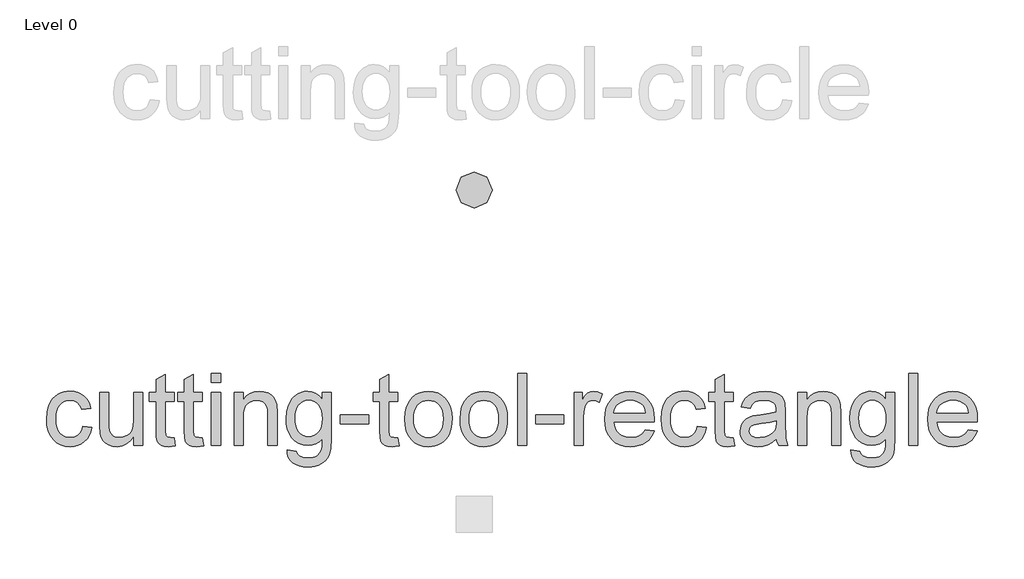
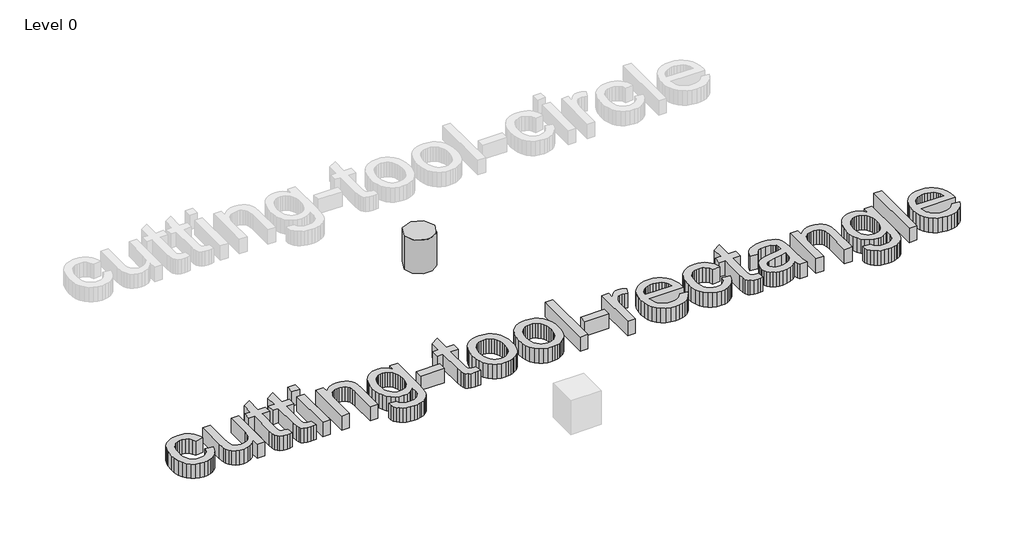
# One storey, part 2 of 3: 2 proxies.
"""IFC4 building model written with IfcOpenShell, lengths in millimetres."""

from ifc_helpers import new_model, si_unit, origin, origin_with_axes, place, context, project, spatial, polyline, outline, extrude, transform, mapped, element, save
from components import kingspan_ks_cutting_tool_circle_cutting_tool_circle_f6fe257a

model = new_model("IFC4")

# Units and contexts
model_context = context("Model", 3, world=origin())
ifc_project = project(units=[si_unit("LENGTHUNIT", "METRE", prefix="MILLI")], contexts=[model_context])

# Site, building, storey
site = spatial("IfcSite", under=ifc_project)
building = spatial("IfcBuilding", under=site)
storey = spatial("IfcBuildingStorey", under=building, Name="Level 0", Elevation=0.0)

# Proxies
placement = place(None, origin())
element("IfcBuildingElementProxy", 1, Name="24\" Arial", ObjectType="24\" Arial", at=placement, inside=storey, context=model_context, shape_type="SweptSolid", body=[
    extrude(outline(polyline([(-1260.3603868, 9879.8088474), (-1184.2186133, 9870.2911257), (-1192.5001465, 9834.3626558), (-1205.4475941, 9802.5703052), (-1223.060956, 9774.9140738), (-1245.3402323, 9751.3939618), (-1271.3466632, 9732.6234159), (-1300.1414892, 9719.2158832), (-1331.7247102, 9711.1713635), (-1366.0963262, 9708.489857), (-1408.8005961, 9712.2309536), (-1447.0899071, 9723.4542436), (-1480.9642593, 9742.1597269), (-1510.4236528, 9768.3474035), (-1534.2690776, 9801.524657), (-1551.3015239, 9841.1988709), (-1561.5209916, 9887.3700452), (-1564.9274809, 9940.03818), (-1559.1090299, 10007.7961791), (-1551.8359663, 10038.2872787), (-1541.6536771, 10066.5197784), (-1528.4924526, 10091.9267044), (-1512.2825828, 10113.9410831), (-1493.0240678, 10132.5629146), (-1470.7169076, 10147.7921987), (-1446.3695717, 10159.6335829), (-1420.9905296, 10168.0917145), (-1394.5797814, 10173.1665935), (-1367.137327, 10174.8582198), (-1333.3559213, 10172.5345573), (-1302.7997591, 10165.5635697), (-1275.4688405, 10153.9452571), (-1251.3631655, 10137.6796194), (-1230.8916987, 10117.1384427), (-1214.4634047, 10092.693513), (-1202.0782835, 10064.3448302), (-1193.736335, 10032.0923944), (-1269.8781085, 10022.5746727), (-1283.6899586, 10055.7937522), (-1305.1977789, 10079.6066457), (-1333.2118542, 10093.9389961), (-1366.5424694, 10098.7164463), (-1392.414128, 10096.3648998), (-1415.748347, 10089.3102604), (-1436.5451266, 10077.552528), (-1454.8044667, 10061.0917027), (-1469.6712595, 10039.5467038), (-1480.2903972, 10012.5364506), (-1486.6618798, 9980.0609432), (-1488.7857074, 9942.1201816), (-1486.7083531, 9903.6077989), (-1480.4762902, 9870.7558582), (-1470.0895187, 9843.5643594), (-1455.5480387, 9822.0333025), (-1437.6511899, 9805.670071), (-1417.1983124, 9793.9820485), (-1394.1894061, 9786.969235), (-1368.6244711, 9784.6316305), (-1329.1965654, 9790.4686708), (-1312.1455298, 9797.7649711), (-1296.8697724, 9807.9797915), (-1283.796847, 9821.2246679), (-1273.3543077, 9837.611136), (-1265.5421543, 9857.1391958), (-1260.3603868, 9879.8088474)])), origin_with_axes(), (0.0, 0.0, 1.0), 152.4),
    extrude(outline(polyline([(-832.0629108, 9718.0075787), (-832.0629108, 9794.8929242), (-859.6122537, 9757.0915823), (-891.6973858, 9730.0906238), (-928.3183071, 9713.8900487), (-969.4750177, 9708.489857), (-1006.5606715, 9712.2820742), (-1041.081002, 9723.6587259), (-1070.0431316, 9740.7608821), (-1090.4541832, 9761.7296127), (-1104.1916761, 9787.1969539), (-1113.1331294, 9817.794942), (-1117.5945615, 9888.5829971), (-1117.5945615, 10165.3404981), (-1041.452788, 10165.3404981), (-1041.452788, 9924.4231678), (-1040.3002514, 9876.2397018), (-1036.8426415, 9846.7942503), (-1025.7448293, 9820.8993551), (-1006.7279752, 9801.2132863), (-981.0561517, 9788.7770444), (-949.9934311, 9784.6316305), (-917.1461377, 9788.8699909), (-886.4180245, 9801.5850723), (-861.0808084, 9821.6057486), (-844.4062061, 9847.7608939), (-835.1487346, 9883.5824753), (-832.0629108, 9932.6024599), (-832.0629108, 10165.3404981), (-755.9211373, 10165.3404981), (-755.9211373, 9718.0075787), (-832.0629108, 9718.0075787)])), origin_with_axes(), (0.0, 0.0, 1.0), 152.4),
    extrude(outline(polyline([(-489.42493, 9781.5086281), (-479.9072083, 9715.7768627), (-510.0590532, 9710.3116084), (-536.864824, 9708.489857), (-573.4113882, 9711.650038), (-600.6633022, 9721.1305811), (-619.9218172, 9735.741771), (-632.4881841, 9754.2938926), (-639.4034038, 9786.1559531), (-641.708477, 9840.6969598), (-641.708477, 10089.1987246), (-698.8148071, 10089.1987246), (-698.8148071, 10165.3404981), (-641.708477, 10165.3404981), (-641.708477, 10274.0507255), (-565.5667035, 10318.8137603), (-565.5667035, 10165.3404981), (-489.42493, 10165.3404981), (-489.42493, 10089.1987246), (-565.5667035, 10089.1987246), (-565.5667035, 9842.9276759), (-561.5514147, 9803.6670739), (-548.5389045, 9789.7622774), (-537.5526281, 9785.9142922), (-522.5882415, 9784.6316305), (-489.42493, 9781.5086281)])), origin_with_axes(), (0.0, 0.0, 1.0), 152.4),
    extrude(outline(polyline([(-251.4818877, 9781.5086281), (-241.964166, 9715.7768627), (-272.1160109, 9710.3116084), (-298.9217818, 9708.489857), (-335.4683459, 9711.650038), (-362.72026, 9721.1305811), (-381.978775, 9735.741771), (-394.5451419, 9754.2938926), (-401.4603615, 9786.1559531), (-403.7654348, 9840.6969598), (-403.7654348, 10089.1987246), (-460.8717649, 10089.1987246), (-460.8717649, 10165.3404981), (-403.7654348, 10165.3404981), (-403.7654348, 10274.0507255), (-327.6236612, 10318.8137603), (-327.6236612, 10165.3404981), (-251.4818877, 10165.3404981), (-251.4818877, 10089.1987246), (-327.6236612, 10089.1987246), (-327.6236612, 9842.9276759), (-323.6083724, 9803.6670739), (-310.5958623, 9789.7622774), (-299.6095859, 9785.9142922), (-284.6451992, 9784.6316305), (-251.4818877, 9781.5086281)])), origin_with_axes(), (0.0, 0.0, 1.0), 152.4),
    extrude(outline(polyline([(-175.3401142, 10250.9999933), (-175.3401142, 10327.1417668), (-99.1983407, 10327.1417668), (-99.1983407, 10250.9999933), (-175.3401142, 10250.9999933)])), origin_with_axes(), (0.0, 0.0, 1.0), 152.4),
    extrude(outline(polyline([(-175.3401142, 9718.0075787), (-175.3401142, 10165.3404981), (-99.1983407, 10165.3404981), (-99.1983407, 9718.0075787), (-175.3401142, 9718.0075787)])), origin_with_axes(), (0.0, 0.0, 1.0), 152.4),
    extrude(outline(polyline([(15.0143196, 9718.0075787), (15.0143196, 10165.3404981), (91.1560931, 10165.3404981), (91.1560931, 10102.8804495), (117.6086672, 10134.370724), (149.3777812, 10156.8637772), (186.4634351, 10170.3596091), (228.8656288, 10174.8582198), (266.3974258, 10171.2333062), (300.7690419, 10160.3585656), (329.4337427, 10143.5910169), (349.8447943, 10122.2876789), (363.693823, 10096.5043195), (372.6724549, 10066.2967068), (376.6877438, 9992.6830781), (376.6877438, 9718.0075787), (300.5459703, 9718.0075787), (300.5459703, 9982.4217844), (298.3524328, 10021.7939221), (291.7718206, 10049.7894082), (279.6330076, 10069.8472631), (260.7648679, 10085.4065073), (236.5801884, 10095.3889615), (208.4917558, 10098.7164463), (185.3713137, 10096.8482216), (163.8960247, 10091.2435476), (144.0658887, 10081.9024243), (125.8809058, 10068.8248516), (110.6888003, 10050.5236856), (99.8372963, 10025.5117822), (93.3263939, 9993.7891414), (91.1560931, 9955.3557633), (91.1560931, 9718.0075787), (15.0143196, 9718.0075787)])), origin_with_axes(), (0.0, 0.0, 1.0), 152.4),
    extrude(outline(polyline([(462.347239, 9679.9366919), (538.4890125, 9670.4189702), (546.8913762, 9646.624666), (563.1756031, 9630.2660818), (595.186378, 9617.5510005), (637.0866606, 9613.3126401), (681.7753383, 9618.1086795), (699.8255487, 9624.1037288), (715.013007, 9632.4967979), (738.0637392, 9655.5475301), (752.1916073, 9686.3314112), (756.318432, 9719.0857581), (757.3966114, 9775.1139088), (732.0593952, 9750.1298894), (703.7850697, 9732.2841612), (672.5736347, 9721.5767243), (638.4250903, 9718.0075787), (596.6781694, 9722.1622873), (559.9224756, 9734.626413), (528.1580089, 9755.399956), (501.3847694, 9784.4829161), (480.1418466, 9819.3750325), (464.9683303, 9857.5760444), (455.8642206, 9899.0859517), (452.8295173, 9943.9047544), (458.2761823, 10005.3795701), (474.6161771, 10061.9096319), (486.7271062, 10087.4002098), (501.2732336, 10109.8142585), (518.2545593, 10129.151778), (537.6710833, 10145.4127683), (559.2114349, 10158.2951533), (582.5642432, 10167.4968569), (607.7295083, 10173.0178791), (634.7072302, 10174.8582198), (670.3150347, 10170.6942165), (702.6325331, 10158.2022068), (731.6597253, 10137.3821906), (757.3966114, 10108.2341679), (757.3966114, 10165.3404981), (833.5383849, 10165.3404981), (833.5383849, 9779.1291977), (828.3333808, 9689.9563247), (821.8271258, 9656.7883659), (812.7183687, 9631.2327255), (800.7886853, 9610.6218389), (785.8196513, 9592.2881416), (767.8112668, 9576.2316336), (746.7635317, 9562.4523148), (722.8902229, 9551.3916812), (696.4051175, 9543.4912286), (667.3082154, 9538.7509571), (635.5995166, 9537.1708666), (598.2954385, 9539.3969353), (564.7556937, 9546.0751414), (534.9802821, 9557.2054848), (508.9692038, 9572.7879657), (487.9586473, 9592.8411733), (473.184801, 9617.3836968), (464.6476649, 9646.4155364), (462.347239, 9679.9366919)]), holes=[polyline([(528.9712908, 9949.1097585), (531.0021719, 9911.4617783), (537.094815, 9879.2697577), (547.2492202, 9852.5336967), (561.4653875, 9831.2535953), (578.7487894, 9815.020489), (598.1048982, 9803.425413), (619.5337139, 9796.4683674), (643.0352367, 9794.1493522), (666.3043932, 9796.4544254), (687.6309678, 9803.3696451), (707.0149606, 9814.8950112), (724.4563715, 9831.0305237), (738.8677264, 9852.1014955), (749.1615514, 9878.4332392), (755.3378464, 9910.0257548), (757.3966114, 9946.8790424), (755.2774312, 9982.1940654), (748.9198905, 10012.8896474), (738.3239894, 10038.9657882), (723.4897279, 10060.4224879), (705.6718836, 10077.1760947), (686.1252345, 10089.1429567), (664.8497804, 10096.3230739), (641.8455215, 10098.7164463), (619.2269905, 10096.3602525), (598.3651484, 10089.2916711), (579.2599951, 10077.5107021), (561.9115307, 10061.0173455), (547.5001758, 10039.8859585), (537.2063508, 10014.1908984), (531.0300558, 9983.932165), (528.9712908, 9949.1097585)])]), origin_with_axes(), (0.0, 0.0, 1.0), 152.4),
    extrude(outline(polyline([(909.6801584, 9898.8442908), (909.6801584, 9974.9860643), (1147.6232006, 9974.9860643), (1147.6232006, 9898.8442908), (909.6801584, 9898.8442908)])), origin_with_axes(), (0.0, 0.0, 1.0), 152.4),
    extrude(outline(polyline([(1395.0839646, 9781.5086281), (1404.6016863, 9715.7768627), (1374.4498414, 9710.3116084), (1347.6440705, 9708.489857), (1311.0975064, 9711.650038), (1283.8455923, 9721.1305811), (1264.5870773, 9735.741771), (1252.0207104, 9754.2938926), (1245.1054908, 9786.1559531), (1242.8004175, 9840.6969598), (1242.8004175, 10089.1987246), (1185.6940874, 10089.1987246), (1185.6940874, 10165.3404981), (1242.8004175, 10165.3404981), (1242.8004175, 10274.0507255), (1318.9421911, 10318.8137603), (1318.9421911, 10165.3404981), (1395.0839646, 10165.3404981), (1395.0839646, 10089.1987246), (1318.9421911, 10089.1987246), (1318.9421911, 9842.9276759), (1322.9574799, 9803.6670739), (1335.96999, 9789.7622774), (1346.9562664, 9785.9142922), (1361.9206531, 9784.6316305), (1395.0839646, 9781.5086281)])), origin_with_axes(), (0.0, 0.0, 1.0), 152.4),
    extrude(outline(polyline([(1452.1902947, 9941.6740384), (1456.3078247, 9999.6075924), (1468.6604147, 10049.529158), (1489.2480646, 10091.4387352), (1518.0707745, 10125.3363241), (1547.0886721, 10147.0021535), (1579.1180363, 10162.4777459), (1614.1588671, 10171.7631013), (1652.2111646, 10174.8582198), (1694.2183357, 10171.0892392), (1732.2009233, 10159.7822973), (1766.1589273, 10140.9373943), (1796.092348, 10114.55453), (1820.5233357, 10081.5259909), (1837.9740412, 10042.7440634), (1848.4444646, 9998.2087475), (1851.9346057, 9947.9200432), (1850.3916938, 9907.1630026), (1845.762958, 9870.9975191), (1838.0483984, 9839.4235928), (1827.248015, 9812.4412236), (1813.4965802, 9789.1348885), (1796.9288665, 9768.5890645), (1777.5448737, 9750.8037515), (1755.344602, 9735.7789496), (1731.1924537, 9723.8399716), (1705.9528314, 9715.3121301), (1679.625735, 9710.1954253), (1652.2111646, 9708.489857), (1609.5905466, 9712.2448956), (1571.2547623, 9723.5100115), (1537.2038117, 9742.2852047), (1507.4376948, 9768.5704752), (1483.2669573, 9801.9196797), (1466.0021447, 9841.886675), (1455.6432572, 9888.4714613), (1452.1902947, 9941.6740384)]), holes=[polyline([(1528.3320682, 9941.8227528), (1530.5349003, 9904.8904607), (1537.1433965, 9872.912217), (1548.1575569, 9845.8880219), (1563.5773814, 9823.8178753), (1582.3339852, 9806.6738932), (1603.3584837, 9794.4281917), (1626.6508769, 9787.0807708), (1652.2111646, 9784.6316305), (1677.6413272, 9787.0947128), (1700.8407739, 9794.4839596), (1721.8095045, 9806.799371), (1740.547519, 9824.0409469), (1755.9673435, 9846.3295178), (1766.9815039, 9873.7859141), (1773.5900001, 9906.4101359), (1775.7928322, 9944.2021832), (1773.5760581, 9979.9633494), (1766.925736, 10011.1050745), (1755.8418657, 10037.6273586), (1740.3244474, 10059.5302015), (1721.516723, 10076.6741836), (1700.5619344, 10088.9198851), (1677.4600816, 10096.267306), (1652.2111646, 10098.7164463), (1626.6508769, 10096.2766006), (1603.3584837, 10088.9570637), (1582.3339852, 10076.7578354), (1563.5773814, 10059.6789159), (1548.1575569, 10037.6738318), (1537.1433965, 10010.6961099), (1530.5349003, 9978.7457503), (1528.3320682, 9941.8227528)])]), origin_with_axes(), (0.0, 0.0, 1.0), 152.4),
    extrude(outline(polyline([(1918.5586575, 9941.6740384), (1922.6761875, 9999.6075924), (1935.0287775, 10049.529158), (1955.6164274, 10091.4387352), (1984.4391373, 10125.3363241), (2013.4570349, 10147.0021535), (2045.4863991, 10162.4777459), (2080.5272299, 10171.7631013), (2118.5795274, 10174.8582198), (2160.5866985, 10171.0892392), (2198.569286, 10159.7822973), (2232.5272901, 10140.9373943), (2262.4607107, 10114.55453), (2286.8916985, 10081.5259909), (2304.342404, 10042.7440634), (2314.8128274, 9998.2087475), (2318.3029685, 9947.9200432), (2316.7600566, 9907.1630026), (2312.1313208, 9870.9975191), (2304.4167612, 9839.4235928), (2293.6163778, 9812.4412236), (2279.864943, 9789.1348885), (2263.2972293, 9768.5890645), (2243.9132365, 9750.8037515), (2221.7129648, 9735.7789496), (2197.5608165, 9723.8399716), (2172.3211942, 9715.3121301), (2145.9940978, 9710.1954253), (2118.5795274, 9708.489857), (2075.9589094, 9712.2448956), (2037.6231251, 9723.5100115), (2003.5721745, 9742.2852047), (1973.8060576, 9768.5704752), (1949.6353201, 9801.9196797), (1932.3705075, 9841.886675), (1922.01162, 9888.4714613), (1918.5586575, 9941.6740384)]), holes=[polyline([(1994.700431, 9941.8227528), (1996.9032631, 9904.8904607), (2003.5117593, 9872.912217), (2014.5259197, 9845.8880219), (2029.9457442, 9823.8178753), (2048.702348, 9806.6738932), (2069.7268465, 9794.4281917), (2093.0192396, 9787.0807708), (2118.5795274, 9784.6316305), (2144.00969, 9787.0947128), (2167.2091366, 9794.4839596), (2188.1778672, 9806.799371), (2206.9158818, 9824.0409469), (2222.3357063, 9846.3295178), (2233.3498667, 9873.7859141), (2239.9583629, 9906.4101359), (2242.161195, 9944.2021832), (2239.9444209, 9979.9633494), (2233.2940988, 10011.1050745), (2222.2102285, 10037.6273586), (2206.6928102, 10059.5302015), (2187.8850858, 10076.6741836), (2166.9302971, 10088.9198851), (2143.8284444, 10096.267306), (2118.5795274, 10098.7164463), (2093.0192396, 10096.2766006), (2069.7268465, 10088.9570637), (2048.702348, 10076.7578354), (2029.9457442, 10059.6789159), (2014.5259197, 10037.6738318), (2003.5117593, 10010.6961099), (1996.9032631, 9978.7457503), (1994.700431, 9941.8227528)])]), origin_with_axes(), (0.0, 0.0, 1.0), 152.4),
    extrude(outline(polyline([(2403.9624637, 9718.0075787), (2403.9624637, 10327.1417668), (2480.1042372, 10327.1417668), (2480.1042372, 9718.0075787), (2403.9624637, 9718.0075787)])), origin_with_axes(), (0.0, 0.0, 1.0), 152.4),
    extrude(outline(polyline([(2556.2460107, 9898.8442908), (2556.2460107, 9974.9860643), (2794.189053, 9974.9860643), (2794.189053, 9898.8442908), (2556.2460107, 9898.8442908)])), origin_with_axes(), (0.0, 0.0, 1.0), 152.4),
    extrude(outline(polyline([(2879.8485482, 9718.0075787), (2879.8485482, 10165.3404981), (2946.4726, 10165.3404981), (2946.4726, 10099.1625895), (2971.0848334, 10137.530905), (2993.7637796, 10160.135494), (3016.517083, 10171.1775383), (3041.3523881, 10174.8582198), (3079.2745604, 10168.9840009), (3117.7915904, 10151.3613444), (3092.3614278, 10083.1014341), (3065.5928355, 10094.8126932), (3038.8242433, 10098.7164463), (3016.0895291, 10094.9614076), (2995.7714241, 10083.6962917), (2979.357072, 10065.7762063), (2968.333617, 10042.0562593), (2959.0761455, 9999.5239405), (2955.9903217, 9953.1250473), (2955.9903217, 9718.0075787), (2879.8485482, 9718.0075787)])), origin_with_axes(), (0.0, 0.0, 1.0), 152.4),
    extrude(outline(polyline([(3478.5727282, 9851.2556823), (3553.2273577, 9841.7379606), (3541.7809961, 9811.8370713), (3526.3286403, 9785.4867383), (3506.8702904, 9762.6869616), (3483.4059462, 9743.4377413), (3456.1772688, 9728.1480419), (3425.425919, 9717.2268281), (3391.1518968, 9710.6740998), (3353.3552022, 9708.489857), (3306.1104958, 9712.2588376), (3264.0150256, 9723.5657794), (3227.0687915, 9742.4106825), (3195.2717935, 9768.7935468), (3169.7022111, 9801.9800949), (3151.4382237, 9841.2360495), (3140.4798313, 9886.5614107), (3136.8270338, 9937.9561783), (3140.5170099, 9991.0936929), (3151.5869381, 10037.9294347), (3170.0368185, 10078.4634037), (3195.8666511, 10112.6956), (3227.5799972, 10139.8917461), (3263.6804182, 10159.3175648), (3304.167914, 10170.973056), (3349.0424846, 10174.8582198), (3392.4717371, 10170.9823507), (3431.7462811, 10159.3547434), (3466.8661164, 10139.975398), (3497.8312432, 10112.8443144), (3523.1080441, 10078.6864753), (3541.1629019, 10038.2268635), (3551.9958166, 9991.4654789), (3555.6067881, 9938.4023216), (3555.1606449, 9917.8797342), (3212.9688073, 9917.8797342), (3217.3791188, 9887.495523), (3226.1486211, 9860.8849398), (3239.2773144, 9838.0479846), (3256.7651985, 9818.9846572), (3277.6456299, 9803.955208), (3300.951965, 9793.2198872), (3326.6842038, 9786.7786947), (3354.8423462, 9784.6316305), (3395.3670206, 9788.6097407), (3429.4969757, 9800.5440715), (3457.2322116, 9821.1781946), (3478.5727282, 9851.2556823)]), holes=[polyline([(3212.9688073, 9994.0215077), (3479.4650146, 9994.0215077), (3469.1665423, 10034.2487533), (3460.3087408, 10050.0682477), (3448.9785623, 10063.0249899), (3428.214314, 10078.6400021), (3404.5873135, 10089.7935822), (3378.0975608, 10096.4857302), (3348.7450558, 10098.7164463), (3321.9718162, 10096.9365208), (3297.419998, 10091.5967443), (3275.0896012, 10082.6971168), (3254.9806257, 10070.2376384), (3238.1061885, 10054.7945773), (3225.4794063, 10036.9442018), (3217.1002793, 10016.6865119), (3212.9688073, 9994.0215077)])]), origin_with_axes(), (0.0, 0.0, 1.0), 152.4),
    extrude(outline(polyline([(3917.2802123, 9879.8088474), (3993.4219858, 9870.2911257), (3985.1404526, 9834.3626558), (3972.193005, 9802.5703052), (3954.5796431, 9774.9140738), (3932.3003669, 9751.3939618), (3906.2939359, 9732.6234159), (3877.49911, 9719.2158832), (3845.915889, 9711.1713635), (3811.5442729, 9708.489857), (3768.8400031, 9712.2309536), (3730.5506921, 9723.4542436), (3696.6763398, 9742.1597269), (3667.2169464, 9768.3474035), (3643.3715216, 9801.524657), (3626.3390753, 9841.1988709), (3616.1196075, 9887.3700452), (3612.7131183, 9940.03818), (3618.5315692, 10007.7961791), (3625.8046329, 10038.2872787), (3635.9869221, 10066.5197784), (3649.1481466, 10091.9267044), (3665.3580164, 10113.9410831), (3684.6165313, 10132.5629146), (3706.9236915, 10147.7921987), (3731.2710275, 10159.6335829), (3756.6500695, 10168.0917145), (3783.0608177, 10173.1665935), (3810.5032721, 10174.8582198), (3844.2846779, 10172.5345573), (3874.84084, 10165.5635697), (3902.1717586, 10153.9452571), (3926.2774336, 10137.6796194), (3946.7489004, 10117.1384427), (3963.1771945, 10092.693513), (3975.5623157, 10064.3448302), (3983.9042642, 10032.0923944), (3907.7624906, 10022.5746727), (3893.9506406, 10055.7937522), (3872.4428203, 10079.6066457), (3844.4287449, 10093.9389961), (3811.0981297, 10098.7164463), (3785.2264712, 10096.3648998), (3761.8922522, 10089.3102604), (3741.0954726, 10077.552528), (3722.8361325, 10061.0917027), (3707.9693397, 10039.5467038), (3697.350202, 10012.5364506), (3690.9787193, 9980.0609432), (3688.8548918, 9942.1201816), (3690.9322461, 9903.6077989), (3697.164309, 9870.7558582), (3707.5510804, 9843.5643594), (3722.0925605, 9822.0333025), (3739.9894092, 9805.670071), (3760.4422868, 9793.9820485), (3783.451193, 9786.969235), (3809.0161281, 9784.6316305), (3848.4440338, 9790.4686708), (3865.4950694, 9797.7649711), (3880.7708268, 9807.9797915), (3893.8437521, 9821.2246679), (3904.2862915, 9837.611136), (3912.0984449, 9857.1391958), (3917.2802123, 9879.8088474)])), origin_with_axes(), (0.0, 0.0, 1.0), 152.4),
    extrude(outline(polyline([(4221.8473064, 9781.5086281), (4231.3650281, 9715.7768627), (4201.2131832, 9710.3116084), (4174.4074124, 9708.489857), (4137.8608482, 9711.650038), (4110.6089342, 9721.1305811), (4091.3504192, 9735.741771), (4078.7840523, 9754.2938926), (4071.8688326, 9786.1559531), (4069.5637594, 9840.6969598), (4069.5637594, 10089.1987246), (4012.4574292, 10089.1987246), (4012.4574292, 10165.3404981), (4069.5637594, 10165.3404981), (4069.5637594, 10274.0507255), (4145.7055329, 10318.8137603), (4145.7055329, 10165.3404981), (4221.8473064, 10165.3404981), (4221.8473064, 10089.1987246), (4145.7055329, 10089.1987246), (4145.7055329, 9842.9276759), (4149.7208217, 9803.6670739), (4162.7333318, 9789.7622774), (4173.7196082, 9785.9142922), (4188.6839949, 9784.6316305), (4221.8473064, 9781.5086281)])), origin_with_axes(), (0.0, 0.0, 1.0), 152.4),
    extrude(outline(polyline([(4583.5207306, 9775.1139088), (4547.1414702, 9743.9210631), (4509.6840303, 9723.5100115), (4470.2933032, 9712.2448956), (4428.1141811, 9708.489857), (4394.2119449, 9710.748457), (4364.4830066, 9717.5242569), (4338.9273662, 9728.8172567), (4317.5450237, 9744.6274565), (4300.6612918, 9763.9510341), (4288.6014833, 9785.7841671), (4281.3655982, 9810.1268557), (4278.9536365, 9836.9790998), (4282.5971394, 9868.5437315), (4293.5276479, 9897.2084324), (4310.3881431, 9921.7463086), (4331.8216062, 9940.9304664), (4357.010108, 9955.4301205), (4385.1357191, 9965.9144858), (4451.016199, 9977.3654947), (4528.8681881, 9989.4113612), (4583.0745874, 10003.5392294), (4583.5207306, 10020.4926711), (4578.278548, 10054.4739118), (4571.7258196, 10067.0588681), (4562.552, 10076.7067149), (4546.695327, 10086.3359723), (4527.3810441, 10093.2140134), (4478.3796488, 10098.7164463), (4433.0217564, 10095.0543541), (4401.3455889, 10084.0680777), (4379.7448221, 10063.7499726), (4364.6131317, 10032.0923944), (4288.4713582, 10041.6101161), (4301.6883507, 10083.2501485), (4321.4115981, 10115.9673168), (4349.4814414, 10140.9885149), (4387.7382212, 10159.5406364), (4434.5274897, 10171.0288239), (4488.1947993, 10174.8582198), (4539.6685715, 10171.4749671), (4580.4720854, 10161.3252092), (4611.2373772, 10146.0633938), (4632.5964831, 10127.3439685), (4646.7615298, 10104.2002898), (4655.9446441, 10075.665714), (4659.6625041, 10009.0416622), (4659.6625041, 9914.3105885), (4663.5290786, 9782.0291285), (4669.254583, 9749.3305495), (4678.6979475, 9718.0075787), (4602.556174, 9718.0075787), (4590.3615931, 9744.4787421), (4583.5207306, 9775.1139088)]), holes=[polyline([(4583.5207306, 9927.3974558), (4532.3629765, 9914.7195531), (4460.682635, 9904.0492948), (4395.1739412, 9891.7059995), (4378.127553, 9883.2664572), (4365.5054182, 9871.6295553), (4357.6979121, 9857.6875802), (4355.0954101, 9842.3328182), (4360.7651466, 9819.6910506), (4377.7743563, 9801.1389291), (4405.751253, 9788.7584551), (4444.3240509, 9784.6316305), (4485.2205113, 9789.186009), (4521.3581108, 9802.8491447), (4550.6548479, 9822.9813568), (4571.0287209, 9846.9429647), (4580.0631208, 9871.6295553), (4583.0745874, 9905.8338676), (4583.5207306, 9927.3974558)])]), origin_with_axes(), (0.0, 0.0, 1.0), 152.4),
    extrude(outline(polyline([(4764.3574427, 9718.0075787), (4764.3574427, 10165.3404981), (4840.4992162, 10165.3404981), (4840.4992162, 10102.8804495), (4866.9517904, 10134.370724), (4898.7209044, 10156.8637772), (4935.8065582, 10170.3596091), (4978.2087519, 10174.8582198), (5015.740549, 10171.2333062), (5050.112165, 10160.3585656), (5078.7768659, 10143.5910169), (5099.1879175, 10122.2876789), (5113.0369461, 10096.5043195), (5122.0155781, 10066.2967068), (5126.0308669, 9992.6830781), (5126.0308669, 9718.0075787), (5049.8890934, 9718.0075787), (5049.8890934, 9982.4217844), (5047.695556, 10021.7939221), (5041.1149437, 10049.7894082), (5028.9761307, 10069.8472631), (5010.107991, 10085.4065073), (4985.9233115, 10095.3889615), (4957.8348789, 10098.7164463), (4934.7144368, 10096.8482216), (4913.2391478, 10091.2435476), (4893.4090118, 10081.9024243), (4875.224029, 10068.8248516), (4860.0319234, 10050.5236856), (4849.1804194, 10025.5117822), (4842.669517, 9993.7891414), (4840.4992162, 9955.3557633), (4840.4992162, 9718.0075787), (4764.3574427, 9718.0075787)])), origin_with_axes(), (0.0, 0.0, 1.0), 152.4),
    extrude(outline(polyline([(5211.6903621, 9679.9366919), (5287.8321356, 9670.4189702), (5296.2344993, 9646.624666), (5312.5187263, 9630.2660818), (5344.5295012, 9617.5510005), (5386.4297838, 9613.3126401), (5431.1184614, 9618.1086795), (5449.1686719, 9624.1037288), (5464.3561301, 9632.4967979), (5487.4068623, 9655.5475301), (5501.5347304, 9686.3314112), (5505.6615551, 9719.0857581), (5506.7397345, 9775.1139088), (5481.4025184, 9750.1298894), (5453.1281928, 9732.2841612), (5421.9167578, 9721.5767243), (5387.7682134, 9718.0075787), (5346.0212925, 9722.1622873), (5309.2655987, 9734.626413), (5277.5011321, 9755.399956), (5250.7278925, 9784.4829161), (5229.4849697, 9819.3750325), (5214.3114534, 9857.5760444), (5205.2073437, 9899.0859517), (5202.1726404, 9943.9047544), (5207.6193054, 10005.3795701), (5223.9593002, 10061.9096319), (5236.0702293, 10087.4002098), (5250.6163567, 10109.8142585), (5267.5976824, 10129.151778), (5287.0142064, 10145.4127683), (5308.554558, 10158.2951533), (5331.9073664, 10167.4968569), (5357.0726315, 10173.0178791), (5384.0503533, 10174.8582198), (5419.6581578, 10170.6942165), (5451.9756562, 10158.2022068), (5481.0028484, 10137.3821906), (5506.7397345, 10108.2341679), (5506.7397345, 10165.3404981), (5582.881508, 10165.3404981), (5582.881508, 9779.1291977), (5577.676504, 9689.9563247), (5571.1702489, 9656.7883659), (5562.0614918, 9631.2327255), (5550.1318084, 9610.6218389), (5535.1627745, 9592.2881416), (5517.1543899, 9576.2316336), (5496.1066548, 9562.4523148), (5472.233346, 9551.3916812), (5445.7482406, 9543.4912286), (5416.6513385, 9538.7509571), (5384.9426398, 9537.1708666), (5347.6385616, 9539.3969353), (5314.0988168, 9546.0751414), (5284.3234052, 9557.2054848), (5258.312327, 9572.7879657), (5237.3017704, 9592.8411733), (5222.5279241, 9617.3836968), (5213.990788, 9646.4155364), (5211.6903621, 9679.9366919)]), holes=[polyline([(5278.3144139, 9949.1097585), (5280.345295, 9911.4617783), (5286.4379381, 9879.2697577), (5296.5923433, 9852.5336967), (5310.8085107, 9831.2535953), (5328.0919125, 9815.020489), (5347.4480213, 9803.425413), (5368.8768371, 9796.4683674), (5392.3783598, 9794.1493522), (5415.6475163, 9796.4544254), (5436.9740909, 9803.3696451), (5456.3580837, 9814.8950112), (5473.7994946, 9831.0305237), (5488.2108495, 9852.1014955), (5498.5046745, 9878.4332392), (5504.6809695, 9910.0257548), (5506.7397345, 9946.8790424), (5504.6205543, 9982.1940654), (5498.2630136, 10012.8896474), (5487.6671125, 10038.9657882), (5472.832851, 10060.4224879), (5455.0150068, 10077.1760947), (5435.4683576, 10089.1429567), (5414.1929036, 10096.3230739), (5391.1886446, 10098.7164463), (5368.5701136, 10096.3602525), (5347.7082715, 10089.2916711), (5328.6031182, 10077.5107021), (5311.2546539, 10061.0173455), (5296.8432989, 10039.8859585), (5286.5494739, 10014.1908984), (5280.3731789, 9983.932165), (5278.3144139, 9949.1097585)])]), origin_with_axes(), (0.0, 0.0, 1.0), 152.4),
    extrude(outline(polyline([(5697.0941683, 9718.0075787), (5697.0941683, 10327.1417668), (5773.2359418, 10327.1417668), (5773.2359418, 9718.0075787), (5697.0941683, 9718.0075787)])), origin_with_axes(), (0.0, 0.0, 1.0), 152.4),
    extrude(outline(polyline([(6200.6411314, 9851.2556823), (6275.2957609, 9841.7379606), (6263.8493994, 9811.8370713), (6248.3970436, 9785.4867383), (6228.9386936, 9762.6869616), (6205.4743495, 9743.4377413), (6178.245672, 9728.1480419), (6147.4943222, 9717.2268281), (6113.2203, 9710.6740998), (6075.4236055, 9708.489857), (6028.1788991, 9712.2588376), (5986.0834288, 9723.5657794), (5949.1371947, 9742.4106825), (5917.3401968, 9768.7935468), (5891.7706144, 9801.9800949), (5873.506627, 9841.2360495), (5862.5482345, 9886.5614107), (5858.895437, 9937.9561783), (5862.5854131, 9991.0936929), (5873.6553414, 10037.9294347), (5892.1052218, 10078.4634037), (5917.9350544, 10112.6956), (5949.6484005, 10139.8917461), (5985.7488214, 10159.3175648), (6026.2363172, 10170.973056), (6071.1108878, 10174.8582198), (6114.5401403, 10170.9823507), (6153.8146843, 10159.3547434), (6188.9345196, 10139.975398), (6219.8996464, 10112.8443144), (6245.1764473, 10078.6864753), (6263.2313051, 10038.2268635), (6274.0642198, 9991.4654789), (6277.6751914, 9938.4023216), (6277.2290482, 9917.8797342), (5935.0372105, 9917.8797342), (5939.447522, 9887.495523), (5948.2170244, 9860.8849398), (5961.3457176, 9838.0479846), (5978.8336017, 9818.9846572), (5999.7140332, 9803.955208), (6023.0203683, 9793.2198872), (6048.752607, 9786.7786947), (6076.9107495, 9784.6316305), (6117.4354239, 9788.6097407), (6151.565379, 9800.5440715), (6179.3006148, 9821.1781946), (6200.6411314, 9851.2556823)]), holes=[polyline([(5935.0372105, 9994.0215077), (6201.5334178, 9994.0215077), (6191.2349455, 10034.2487533), (6182.377144, 10050.0682477), (6171.0469656, 10063.0249899), (6150.2827173, 10078.6400021), (6126.6557167, 10089.7935822), (6100.165964, 10096.4857302), (6070.813459, 10098.7164463), (6044.0402194, 10096.9365208), (6019.4884012, 10091.5967443), (5997.1580044, 10082.6971168), (5977.0490289, 10070.2376384), (5960.1745917, 10054.7945773), (5947.5478096, 10036.9442018), (5939.1686825, 10016.6865119), (5935.0372105, 9994.0215077)])]), origin_with_axes(), (0.0, 0.0, 1.0), 152.4),
])
kingspan_ks_cutting_tool_circle_cutting_tool_circle_shape = kingspan_ks_cutting_tool_circle_cutting_tool_circle_f6fe257a(model_context)
element("IfcBuildingElementProxy", 2, Name="kingspan-ks-cutting-tool-circle : cutting-tool-circle", ObjectType="kingspan-ks-cutting-tool-circle : cutting-tool-circle", at=placement, inside=storey, context=model_context, shape_type="MappedRepresentation", body=[
    mapped(kingspan_ks_cutting_tool_circle_cutting_tool_circle_shape, transform((2037.6859776, 11872.7643492, 0.0), x_axis=(1.0, 0.0, 0.0), y_axis=(0.0, 1.0, 0.0), z_axis=(0.0, 0.0, 1.0))),
])

save(model, "model.ifc")
